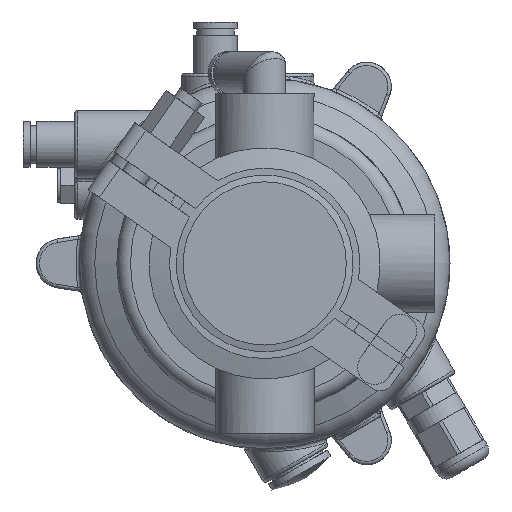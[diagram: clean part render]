
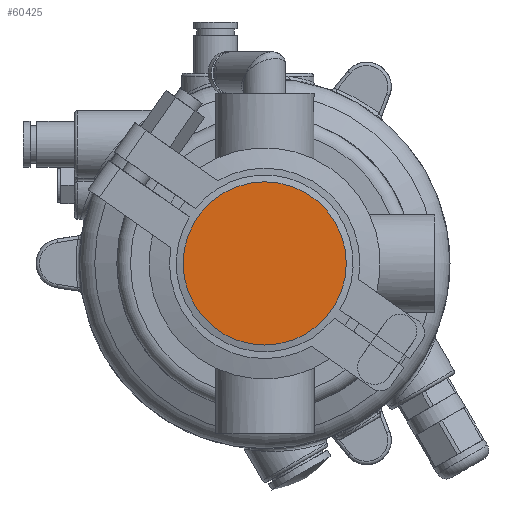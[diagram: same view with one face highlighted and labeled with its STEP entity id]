
A CAD part, front view. The second image highlights one B-rep face of the part: STEP entity #60425.
In plain terms, the highlighted planar face has unit normal (0, -1, 0).
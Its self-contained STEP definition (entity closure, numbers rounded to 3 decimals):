
#1521 = DIRECTION ( 'NONE',  ( 0., 0., -1. ) ) ;
#5484 = CARTESIAN_POINT ( 'NONE',  ( -24., 0., 0. ) ) ;
#9501 = DIRECTION ( 'NONE',  ( 0., -1., 0. ) ) ;
#10857 = CARTESIAN_POINT ( 'NONE',  ( 0., 0., 0. ) ) ;
#12250 = CIRCLE ( 'NONE', #30814, 24. ) ;
#17945 = EDGE_CURVE ( 'NONE', #57263, #57263, #12250, .T. ) ;
#28836 = FACE_OUTER_BOUND ( 'NONE', #50704, .T. ) ;
#30814 = AXIS2_PLACEMENT_3D ( 'NONE', #10857, #39022, #47507 ) ;
#36071 = ORIENTED_EDGE ( 'NONE', *, *, #17945, .F. ) ;
#39022 = DIRECTION ( 'NONE',  ( 0., 1., 0. ) ) ;
#42658 = CARTESIAN_POINT ( 'NONE',  ( 0., 0., 24. ) ) ;
#43025 = AXIS2_PLACEMENT_3D ( 'NONE', #5484, #9501, #1521 ) ;
#47420 = PLANE ( 'NONE',  #43025 ) ;
#47507 = DIRECTION ( 'NONE',  ( 0., 0., 1. ) ) ;
#50704 = EDGE_LOOP ( 'NONE', ( #36071 ) ) ;
#57263 = VERTEX_POINT ( 'NONE', #42658 ) ;
#60425 = ADVANCED_FACE ( 'NONE', ( #28836 ), #47420, .T. ) ;
